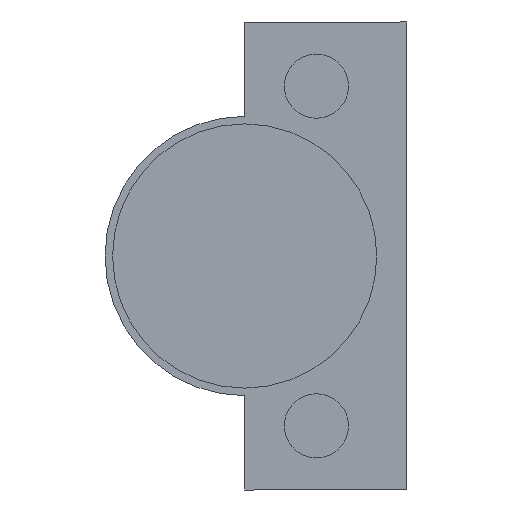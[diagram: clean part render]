
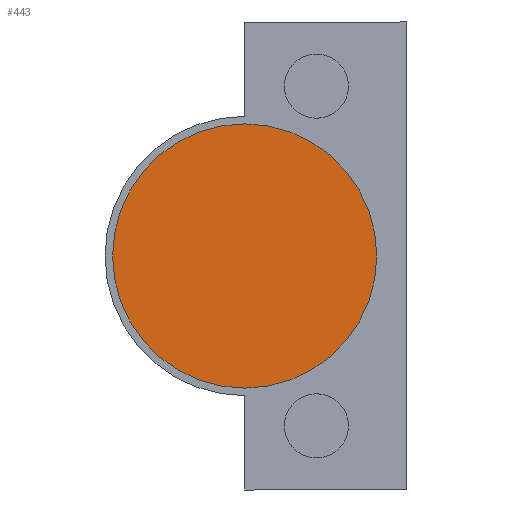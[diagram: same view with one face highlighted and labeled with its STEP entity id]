
A CAD part, front view. The second image highlights one B-rep face of the part: STEP entity #443.
In plain terms, the highlighted planar face has unit normal (0, -1, 0).
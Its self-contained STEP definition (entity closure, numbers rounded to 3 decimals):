
#90 = VERTEX_POINT ( 'NONE', #1399 ) ;
#135 = AXIS2_PLACEMENT_3D ( 'NONE', #904, #833, #823 ) ;
#145 = EDGE_LOOP ( 'NONE', ( #1543, #1011 ) ) ;
#181 = CARTESIAN_POINT ( 'NONE',  ( -5.5, -51.1, 0. ) ) ;
#296 = DIRECTION ( 'NONE',  ( 1., 0., 0. ) ) ;
#341 = VERTEX_POINT ( 'NONE', #181 ) ;
#363 = EDGE_CURVE ( 'NONE', #341, #90, #1034, .T. ) ;
#443 = ADVANCED_FACE ( 'NONE', ( #1557 ), #862, .T. ) ;
#455 = EDGE_CURVE ( 'NONE', #90, #341, #518, .T. ) ;
#464 = DIRECTION ( 'NONE',  ( 0., -1., 0. ) ) ;
#518 = CIRCLE ( 'NONE', #1462, 17.5 ) ;
#551 = CARTESIAN_POINT ( 'NONE',  ( 12., -51.1, 0. ) ) ;
#597 = DIRECTION ( 'NONE',  ( 1., 0., 0. ) ) ;
#615 = DIRECTION ( 'NONE',  ( 0., -1., 0. ) ) ;
#622 = CARTESIAN_POINT ( 'NONE',  ( 12., -51.1, 0. ) ) ;
#823 = DIRECTION ( 'NONE',  ( 1., 0., 0. ) ) ;
#833 = DIRECTION ( 'NONE',  ( 0., -1., 0. ) ) ;
#862 = PLANE ( 'NONE',  #135 ) ;
#904 = CARTESIAN_POINT ( 'NONE',  ( 12., -51.1, 0. ) ) ;
#1011 = ORIENTED_EDGE ( 'NONE', *, *, #455, .T. ) ;
#1034 = CIRCLE ( 'NONE', #1142, 17.5 ) ;
#1142 = AXIS2_PLACEMENT_3D ( 'NONE', #551, #464, #296 ) ;
#1399 = CARTESIAN_POINT ( 'NONE',  ( 29.5, -51.1, 0. ) ) ;
#1462 = AXIS2_PLACEMENT_3D ( 'NONE', #622, #615, #597 ) ;
#1543 = ORIENTED_EDGE ( 'NONE', *, *, #363, .T. ) ;
#1557 = FACE_OUTER_BOUND ( 'NONE', #145, .T. ) ;
